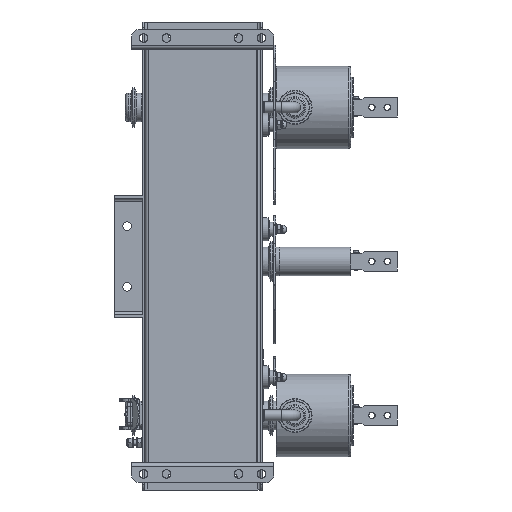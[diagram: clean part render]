
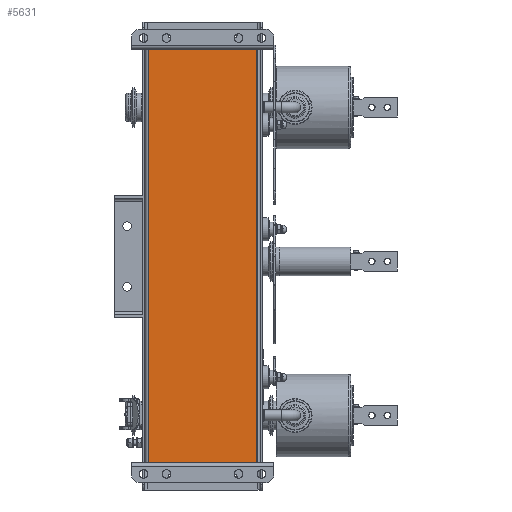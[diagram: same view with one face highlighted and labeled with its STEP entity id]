
A CAD part, front view. The second image highlights one B-rep face of the part: STEP entity #5631.
In plain terms, the highlighted planar face has unit normal (0, -1, 0) as drawn and (-0.189, 0, -0.982) by its records, which use the part's own axes.
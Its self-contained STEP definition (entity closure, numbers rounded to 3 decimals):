
#5631=ADVANCED_FACE('',(#20185),#20187,.T.);
#20185=FACE_BOUND('',#20186,.T.);
#20186=EDGE_LOOP('',(#34462,#34463,#34464,#34465));
#20187=PLANE('',#20188);
#20188=AXIS2_PLACEMENT_3D('',#20189,#20190,#20191);
#20189=CARTESIAN_POINT('',(100.775,-376.193,0.));
#20190=DIRECTION('',(-0.189,0.,-0.982));
#20191=DIRECTION('',(-0.982,0.,0.189));
#34462=ORIENTED_EDGE('',*,*,#42534,.T.);
#34463=ORIENTED_EDGE('',*,*,#42527,.F.);
#34464=ORIENTED_EDGE('',*,*,#42530,.T.);
#34465=ORIENTED_EDGE('',*,*,#42515,.T.);
#42515=EDGE_CURVE('',#47507,#47505,#47508,.T.);
#42527=EDGE_CURVE('',#47529,#47516,#47531,.T.);
#42530=EDGE_CURVE('',#47529,#47507,#47534,.T.);
#42534=EDGE_CURVE('',#47505,#47516,#47538,.T.);
#47505=VERTEX_POINT('',#56858);
#47507=VERTEX_POINT('',#56863);
#47508=LINE('',#56864,#56865);
#47516=VERTEX_POINT('',#56884);
#47529=VERTEX_POINT('',#56912);
#47531=LINE('',#56917,#56918);
#47534=LINE('',#56926,#56927);
#47538=LINE('',#56938,#56939);
#56858=CARTESIAN_POINT('',(-93.994,-376.193,37.426));
#56863=CARTESIAN_POINT('',(100.775,-376.193,0.));
#56864=CARTESIAN_POINT('',(100.775,-376.193,0.));
#56865=VECTOR('',#56866,1.);
#56866=DIRECTION('',(-0.982,0.,0.189));
#56884=CARTESIAN_POINT('',(-93.994,375.807,37.426));
#56912=CARTESIAN_POINT('',(100.775,375.807,0.));
#56917=CARTESIAN_POINT('',(100.775,375.807,0.));
#56918=VECTOR('',#56919,1.);
#56919=DIRECTION('',(-0.982,0.,0.189));
#56926=CARTESIAN_POINT('',(100.775,375.807,0.));
#56927=VECTOR('',#56928,1.);
#56928=DIRECTION('',(0.,-1.,0.));
#56938=CARTESIAN_POINT('',(-93.994,-376.193,37.426));
#56939=VECTOR('',#56940,1.);
#56940=DIRECTION('',(0.,1.,0.));
